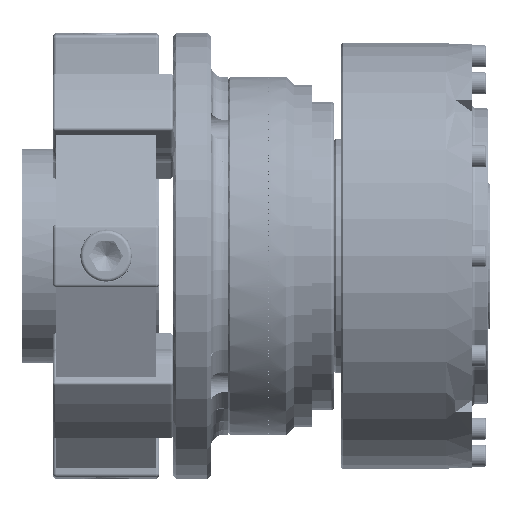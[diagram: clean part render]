
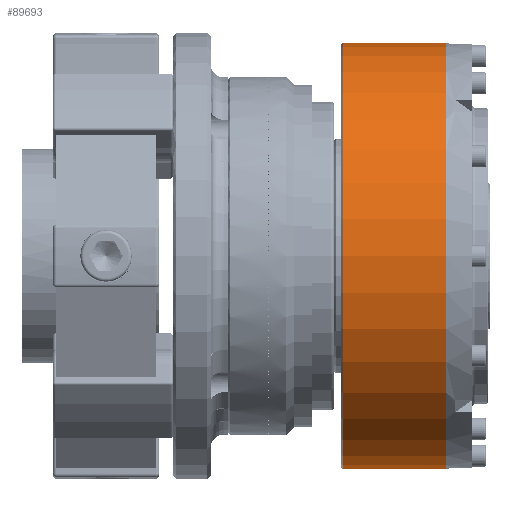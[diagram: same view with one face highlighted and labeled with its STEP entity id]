
A CAD part, front view. The second image highlights one B-rep face of the part: STEP entity #89693.
In plain terms, the highlighted cylindrical face has radius 124 mm (diameter 248 mm), a full revolution.
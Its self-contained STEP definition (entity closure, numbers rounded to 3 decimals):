
#5516=CYLINDRICAL_SURFACE('',#100582,124.);
#6212=FACE_BOUND('',#18441,.T.);
#9083=CIRCLE('',#100581,124.);
#9084=CIRCLE('',#100583,124.);
#13670=FACE_OUTER_BOUND('',#18440,.T.);
#18440=EDGE_LOOP('',(#67980,#67981,#67982,#67983));
#18441=EDGE_LOOP('',(#67984,#67985));
#23708=LINE('',#206817,#27782);
#27782=VECTOR('',#125675,124.);
#29128=B_SPLINE_CURVE_WITH_KNOTS('',3,(#206768,#206769,#206770,#206771,
#206772,#206773,#206774,#206775,#206776,#206777,#206778,#206779,#206780,
#206781,#206782,#206783,#206784,#206785),.UNSPECIFIED.,.F.,.F.,(4,2,2,2,
2,2,2,2,4),(0.862,1.078,1.294,1.509,
1.725,1.94,2.156,2.372,2.587),
 .UNSPECIFIED.);
#29129=B_SPLINE_CURVE_WITH_KNOTS('',3,(#206786,#206787,#206788,#206789,
#206790,#206791,#206792,#206793,#206794,#206795,#206796,#206797,#206798,
#206799,#206800,#206801,#206802,#206803,#206804),.UNSPECIFIED.,.F.,.F.,
(4,2,2,2,3,2,2,2,4),(2.587,2.803,3.018,
3.234,3.449,3.665,3.881,4.096,
4.312),.UNSPECIFIED.);
#35561=VERTEX_POINT('',#206766);
#35562=VERTEX_POINT('',#206767);
#35564=VERTEX_POINT('',#206811);
#35565=VERTEX_POINT('',#206815);
#47651=EDGE_CURVE('',#35561,#35562,#29128,.T.);
#47652=EDGE_CURVE('',#35562,#35561,#29129,.T.);
#47656=EDGE_CURVE('',#35564,#35564,#9083,.T.);
#47658=EDGE_CURVE('',#35565,#35565,#9084,.T.);
#47659=EDGE_CURVE('',#35565,#35564,#23708,.T.);
#67980=ORIENTED_EDGE('',*,*,#47658,.F.);
#67981=ORIENTED_EDGE('',*,*,#47659,.T.);
#67982=ORIENTED_EDGE('',*,*,#47656,.T.);
#67983=ORIENTED_EDGE('',*,*,#47659,.F.);
#67984=ORIENTED_EDGE('',*,*,#47651,.T.);
#67985=ORIENTED_EDGE('',*,*,#47652,.T.);
#89693=ADVANCED_FACE('',(#13670,#6212),#5516,.T.);
#100581=AXIS2_PLACEMENT_3D('',#206812,#125668,#125669);
#100582=AXIS2_PLACEMENT_3D('',#206814,#125671,#125672);
#100583=AXIS2_PLACEMENT_3D('',#206816,#125673,#125674);
#125668=DIRECTION('center_axis',(1.,0.,0.));
#125669=DIRECTION('ref_axis',(0.,1.,0.));
#125671=DIRECTION('center_axis',(1.,0.,0.));
#125672=DIRECTION('ref_axis',(0.,1.,0.));
#125673=DIRECTION('center_axis',(1.,0.,0.));
#125674=DIRECTION('ref_axis',(0.,1.,0.));
#125675=DIRECTION('',(-1.,0.,0.));
#206766=CARTESIAN_POINT('',(8.777,124.,0.));
#206767=CARTESIAN_POINT('',(20.222,124.,0.));
#206768=CARTESIAN_POINT('Ctrl Pts',(8.777,124.,0.));
#206769=CARTESIAN_POINT('Ctrl Pts',(8.777,124.,-0.719));
#206770=CARTESIAN_POINT('Ctrl Pts',(8.921,123.993,-1.485));
#206771=CARTESIAN_POINT('Ctrl Pts',(9.505,123.968,-2.895));
#206772=CARTESIAN_POINT('Ctrl Pts',(9.946,123.951,-3.538));
#206773=CARTESIAN_POINT('Ctrl Pts',(10.962,123.917,-4.554));
#206774=CARTESIAN_POINT('Ctrl Pts',(11.605,123.9,-4.995));
#206775=CARTESIAN_POINT('Ctrl Pts',(13.015,123.875,-5.579));
#206776=CARTESIAN_POINT('Ctrl Pts',(13.781,123.868,-5.723));
#206777=CARTESIAN_POINT('Ctrl Pts',(15.219,123.868,-5.723));
#206778=CARTESIAN_POINT('Ctrl Pts',(15.985,123.875,-5.579));
#206779=CARTESIAN_POINT('Ctrl Pts',(17.395,123.9,-4.995));
#206780=CARTESIAN_POINT('Ctrl Pts',(18.038,123.917,-4.554));
#206781=CARTESIAN_POINT('Ctrl Pts',(19.054,123.951,-3.538));
#206782=CARTESIAN_POINT('Ctrl Pts',(19.495,123.968,-2.895));
#206783=CARTESIAN_POINT('Ctrl Pts',(20.079,123.993,-1.485));
#206784=CARTESIAN_POINT('Ctrl Pts',(20.222,124.,-0.719));
#206785=CARTESIAN_POINT('Ctrl Pts',(20.222,124.,0.));
#206786=CARTESIAN_POINT('Ctrl Pts',(20.222,124.,0.));
#206787=CARTESIAN_POINT('Ctrl Pts',(20.222,124.,0.719));
#206788=CARTESIAN_POINT('Ctrl Pts',(20.079,123.993,1.485));
#206789=CARTESIAN_POINT('Ctrl Pts',(19.495,123.968,2.895));
#206790=CARTESIAN_POINT('Ctrl Pts',(19.054,123.951,3.538));
#206791=CARTESIAN_POINT('Ctrl Pts',(18.038,123.917,4.554));
#206792=CARTESIAN_POINT('Ctrl Pts',(17.395,123.9,4.995));
#206793=CARTESIAN_POINT('Ctrl Pts',(15.985,123.875,5.579));
#206794=CARTESIAN_POINT('Ctrl Pts',(15.219,123.868,5.723));
#206795=CARTESIAN_POINT('Ctrl Pts',(14.5,123.868,5.723));
#206796=CARTESIAN_POINT('Ctrl Pts',(13.781,123.868,5.723));
#206797=CARTESIAN_POINT('Ctrl Pts',(13.015,123.875,5.579));
#206798=CARTESIAN_POINT('Ctrl Pts',(11.605,123.9,4.995));
#206799=CARTESIAN_POINT('Ctrl Pts',(10.962,123.917,4.554));
#206800=CARTESIAN_POINT('Ctrl Pts',(9.946,123.951,3.538));
#206801=CARTESIAN_POINT('Ctrl Pts',(9.505,123.968,2.895));
#206802=CARTESIAN_POINT('Ctrl Pts',(8.921,123.993,1.485));
#206803=CARTESIAN_POINT('Ctrl Pts',(8.777,124.,0.719));
#206804=CARTESIAN_POINT('Ctrl Pts',(8.777,124.,0.));
#206811=CARTESIAN_POINT('',(6.5,-124.,0.));
#206812=CARTESIAN_POINT('Origin',(6.5,0.,0.));
#206814=CARTESIAN_POINT('Origin',(36.75,0.,0.));
#206815=CARTESIAN_POINT('',(67.,-124.,0.));
#206816=CARTESIAN_POINT('Origin',(67.,0.,0.));
#206817=CARTESIAN_POINT('',(36.75,-124.,0.));
